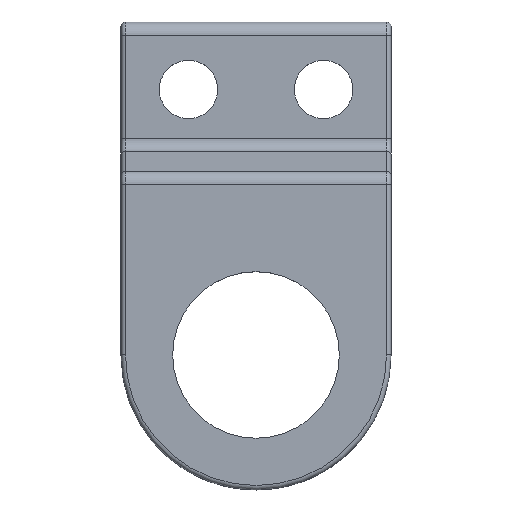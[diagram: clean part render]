
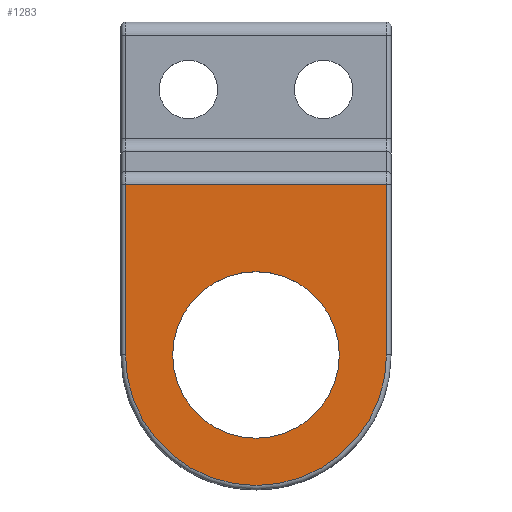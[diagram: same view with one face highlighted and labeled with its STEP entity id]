
A CAD part, top view. The second image highlights one B-rep face of the part: STEP entity #1283.
In plain terms, the highlighted planar face has unit normal (0, 0, 1).
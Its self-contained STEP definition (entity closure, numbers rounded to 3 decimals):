
#36 = CARTESIAN_POINT ( 'NONE',  ( -14.5, -18.04, 16. ) ) ;
#53 = VECTOR ( 'NONE', #406, 1000. ) ;
#56 = DIRECTION ( 'NONE',  ( 0., 1., 0. ) ) ;
#133 = DIRECTION ( 'NONE',  ( 0., 0., 1. ) ) ;
#219 = CARTESIAN_POINT ( 'NONE',  ( -14.5, -52., 16. ) ) ;
#281 = CARTESIAN_POINT ( 'NONE',  ( 0., -46.25, 16. ) ) ;
#306 = VERTEX_POINT ( 'NONE', #36 ) ;
#345 = VERTEX_POINT ( 'NONE', #1683 ) ;
#406 = DIRECTION ( 'NONE',  ( -1., 0., 0. ) ) ;
#468 = AXIS2_PLACEMENT_3D ( 'NONE', #542, #1019, #56 ) ;
#495 = EDGE_CURVE ( 'NONE', #1754, #1754, #1648, .T. ) ;
#528 = LINE ( 'NONE', #706, #661 ) ;
#542 = CARTESIAN_POINT ( 'NONE',  ( 15., -52., 16. ) ) ;
#586 = LINE ( 'NONE', #748, #53 ) ;
#615 = EDGE_CURVE ( 'NONE', #306, #952, #692, .T. ) ;
#661 = VECTOR ( 'NONE', #1192, 1000. ) ;
#680 = EDGE_LOOP ( 'NONE', ( #1520, #1586, #1934, #813 ) ) ;
#692 = LINE ( 'NONE', #219, #812 ) ;
#696 = CARTESIAN_POINT ( 'NONE',  ( -14.5, -37., 16. ) ) ;
#706 = CARTESIAN_POINT ( 'NONE',  ( 14.5, -18.04, 16. ) ) ;
#748 = CARTESIAN_POINT ( 'NONE',  ( 15., -18.04, 16. ) ) ;
#769 = EDGE_CURVE ( 'NONE', #345, #306, #586, .T. ) ;
#812 = VECTOR ( 'NONE', #2001, 1000. ) ;
#813 = ORIENTED_EDGE ( 'NONE', *, *, #615, .T. ) ;
#952 = VERTEX_POINT ( 'NONE', #696 ) ;
#954 = EDGE_CURVE ( 'NONE', #1073, #345, #528, .T. ) ;
#1019 = DIRECTION ( 'NONE',  ( 0., 0., -1. ) ) ;
#1073 = VERTEX_POINT ( 'NONE', #1480 ) ;
#1192 = DIRECTION ( 'NONE',  ( 0., 1., 0. ) ) ;
#1279 = DIRECTION ( 'NONE',  ( 0., 0., 1. ) ) ;
#1283 = ADVANCED_FACE ( 'NONE', ( #2022, #1834 ), #1689, .F. ) ;
#1450 = CARTESIAN_POINT ( 'NONE',  ( 0., -37., 16. ) ) ;
#1480 = CARTESIAN_POINT ( 'NONE',  ( 14.5, -37., 16. ) ) ;
#1520 = ORIENTED_EDGE ( 'NONE', *, *, #1700, .T. ) ;
#1533 = CIRCLE ( 'NONE', #1711, 14.5 ) ;
#1549 = ORIENTED_EDGE ( 'NONE', *, *, #495, .F. ) ;
#1550 = CARTESIAN_POINT ( 'NONE',  ( 0., -37., 16. ) ) ;
#1586 = ORIENTED_EDGE ( 'NONE', *, *, #954, .T. ) ;
#1648 = CIRCLE ( 'NONE', #1981, 9.25 ) ;
#1683 = CARTESIAN_POINT ( 'NONE',  ( 14.5, -18.04, 16. ) ) ;
#1689 = PLANE ( 'NONE',  #468 ) ;
#1700 = EDGE_CURVE ( 'NONE', #952, #1073, #1533, .T. ) ;
#1711 = AXIS2_PLACEMENT_3D ( 'NONE', #1550, #1279, #1926 ) ;
#1754 = VERTEX_POINT ( 'NONE', #281 ) ;
#1834 = FACE_OUTER_BOUND ( 'NONE', #680, .T. ) ;
#1926 = DIRECTION ( 'NONE',  ( 0., 1., 0. ) ) ;
#1934 = ORIENTED_EDGE ( 'NONE', *, *, #769, .T. ) ;
#1938 = EDGE_LOOP ( 'NONE', ( #1549 ) ) ;
#1952 = DIRECTION ( 'NONE',  ( 0., -1., 0. ) ) ;
#1981 = AXIS2_PLACEMENT_3D ( 'NONE', #1450, #133, #1952 ) ;
#2001 = DIRECTION ( 'NONE',  ( 0., -1., 0. ) ) ;
#2022 = FACE_BOUND ( 'NONE', #1938, .T. ) ;
